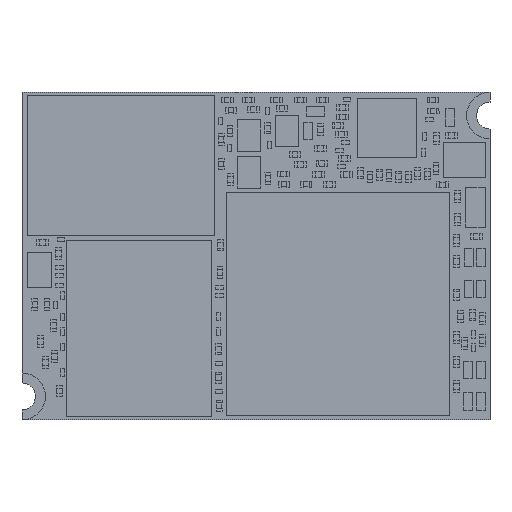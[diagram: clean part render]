
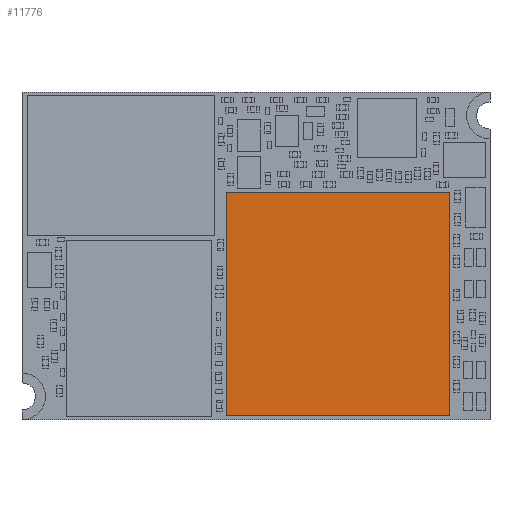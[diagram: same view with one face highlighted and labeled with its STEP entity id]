
A CAD part, top view. The second image highlights one B-rep face of the part: STEP entity #11776.
In plain terms, the highlighted planar face has unit normal (0, 0, 1).
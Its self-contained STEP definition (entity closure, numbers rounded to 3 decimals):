
#2163 = PLANE ( 'NONE',  #92772 ) ;
#7366 = LINE ( 'NONE', #37359, #20595 ) ;
#11776 = ADVANCED_FACE ( 'NONE', ( #25780 ), #2163, .T. ) ;
#16437 = EDGE_CURVE ( 'NONE', #55608, #76286, #77666, .T. ) ;
#17454 = EDGE_CURVE ( 'NONE', #30259, #55608, #93233, .T. ) ;
#19699 = CARTESIAN_POINT ( 'NONE',  ( 36.58, 19.45, 3.225 ) ) ;
#20595 = VECTOR ( 'NONE', #60542, 1000. ) ;
#25780 = FACE_OUTER_BOUND ( 'NONE', #42989, .T. ) ;
#26472 = DIRECTION ( 'NONE',  ( 1., 0., 0. ) ) ;
#27301 = EDGE_CURVE ( 'NONE', #76286, #83045, #44961, .T. ) ;
#28972 = DIRECTION ( 'NONE',  ( 0., -1., 0. ) ) ;
#30259 = VERTEX_POINT ( 'NONE', #19699 ) ;
#30892 = ORIENTED_EDGE ( 'NONE', *, *, #17454, .T. ) ;
#37359 = CARTESIAN_POINT ( 'NONE',  ( 36.58, 0.35, 3.225 ) ) ;
#37969 = CARTESIAN_POINT ( 'NONE',  ( 17.48, 0.35, 3.225 ) ) ;
#42142 = CARTESIAN_POINT ( 'NONE',  ( 36.58, 19.45, 3.225 ) ) ;
#42989 = EDGE_LOOP ( 'NONE', ( #85049, #48338, #78722, #30892 ) ) ;
#44408 = EDGE_CURVE ( 'NONE', #83045, #30259, #7366, .T. ) ;
#44961 = LINE ( 'NONE', #37969, #57021 ) ;
#48338 = ORIENTED_EDGE ( 'NONE', *, *, #27301, .T. ) ;
#52163 = VECTOR ( 'NONE', #96150, 1000. ) ;
#55608 = VERTEX_POINT ( 'NONE', #91618 ) ;
#56828 = CARTESIAN_POINT ( 'NONE',  ( 0., 0., 3.225 ) ) ;
#57021 = VECTOR ( 'NONE', #67632, 1000. ) ;
#60542 = DIRECTION ( 'NONE',  ( 0., 1., 0. ) ) ;
#67632 = DIRECTION ( 'NONE',  ( 1., 0., 0. ) ) ;
#68514 = CARTESIAN_POINT ( 'NONE',  ( 17.48, 0.35, 3.225 ) ) ;
#76286 = VERTEX_POINT ( 'NONE', #68514 ) ;
#77666 = LINE ( 'NONE', #91391, #89758 ) ;
#78722 = ORIENTED_EDGE ( 'NONE', *, *, #44408, .T. ) ;
#78971 = CARTESIAN_POINT ( 'NONE',  ( 36.58, 0.35, 3.225 ) ) ;
#83045 = VERTEX_POINT ( 'NONE', #78971 ) ;
#85049 = ORIENTED_EDGE ( 'NONE', *, *, #16437, .T. ) ;
#89758 = VECTOR ( 'NONE', #28972, 1000. ) ;
#91391 = CARTESIAN_POINT ( 'NONE',  ( 17.48, 19.45, 3.225 ) ) ;
#91618 = CARTESIAN_POINT ( 'NONE',  ( 17.48, 19.45, 3.225 ) ) ;
#92772 = AXIS2_PLACEMENT_3D ( 'NONE', #56828, #94692, #26472 ) ;
#93233 = LINE ( 'NONE', #42142, #52163 ) ;
#94692 = DIRECTION ( 'NONE',  ( 0., 0., 1. ) ) ;
#96150 = DIRECTION ( 'NONE',  ( -1., 0., 0. ) ) ;
